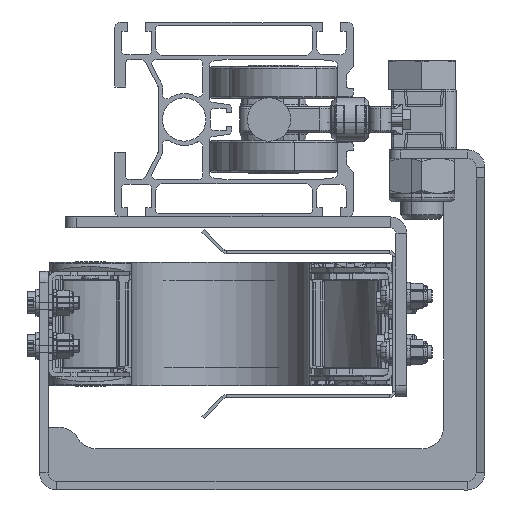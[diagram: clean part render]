
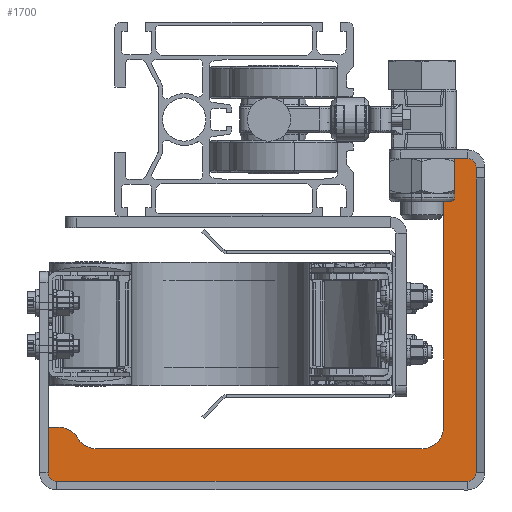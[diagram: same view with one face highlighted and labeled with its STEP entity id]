
A CAD part, left-side view. The second image highlights one B-rep face of the part: STEP entity #1700.
In plain terms, the highlighted planar face has unit normal (-1, 0, 0) as drawn and (0, 0, -1) by its records, which use the part's own axes.
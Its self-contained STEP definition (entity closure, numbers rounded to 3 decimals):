
#1534 = VECTOR ( 'NONE', #67469, 1000. ) ;
#1700 = ADVANCED_FACE ( 'NONE', ( #117446 ), #47158, .T. ) ;
#1820 = CARTESIAN_POINT ( 'NONE',  ( 61.5, 5., -26.5 ) ) ;
#2233 = CARTESIAN_POINT ( 'NONE',  ( 51.5, 172.5, -26.5 ) ) ;
#2324 = EDGE_CURVE ( 'NONE', #106094, #5981, #6878, .T. ) ;
#3713 = VERTEX_POINT ( 'NONE', #15935 ) ;
#4251 = ORIENTED_EDGE ( 'NONE', *, *, #87080, .T. ) ;
#4475 = AXIS2_PLACEMENT_3D ( 'NONE', #24157, #25373, #52193 ) ;
#4877 = EDGE_CURVE ( 'NONE', #31063, #3713, #72235, .T. ) ;
#5722 = LINE ( 'NONE', #103664, #119206 ) ;
#5981 = VERTEX_POINT ( 'NONE', #2233 ) ;
#6405 = DIRECTION ( 'NONE',  ( 0., 1., 0. ) ) ;
#6878 = CIRCLE ( 'NONE', #65081, 10. ) ;
#8131 = VECTOR ( 'NONE', #86411, 1000. ) ;
#8220 = ORIENTED_EDGE ( 'NONE', *, *, #13661, .T. ) ;
#11043 = EDGE_CURVE ( 'NONE', #91167, #52694, #49641, .T. ) ;
#12881 = EDGE_CURVE ( 'NONE', #81939, #55741, #55100, .T. ) ;
#13279 = ORIENTED_EDGE ( 'NONE', *, *, #54406, .T. ) ;
#13357 = CARTESIAN_POINT ( 'NONE',  ( 61.5, 172.5, -26.5 ) ) ;
#13661 = EDGE_CURVE ( 'NONE', #100036, #31063, #20162, .T. ) ;
#14737 = VERTEX_POINT ( 'NONE', #107710 ) ;
#15908 = DIRECTION ( 'NONE',  ( 0., 0., -1. ) ) ;
#15935 = CARTESIAN_POINT ( 'NONE',  ( 61.5, 155.179, -26.5 ) ) ;
#16116 = DIRECTION ( 'NONE',  ( 0., 1., 0. ) ) ;
#19694 = CARTESIAN_POINT ( 'NONE',  ( 56.5, 163.84, -26.5 ) ) ;
#20162 = CIRCLE ( 'NONE', #35015, 10. ) ;
#21918 = ORIENTED_EDGE ( 'NONE', *, *, #2324, .T. ) ;
#24157 = CARTESIAN_POINT ( 'NONE',  ( -68.5, -16., -26.5 ) ) ;
#25207 = DIRECTION ( 'NONE',  ( 0., 1., 0. ) ) ;
#25373 = DIRECTION ( 'NONE',  ( 0., 0., -1. ) ) ;
#25579 = EDGE_LOOP ( 'NONE', ( #65804, #8220, #107972, #98740, #21918, #4251, #13279, #47719, #60716, #107075, #73919, #116579, #48696 ) ) ;
#27870 = CARTESIAN_POINT ( 'NONE',  ( 76.5, 173.5, -26.5 ) ) ;
#29338 = VERTEX_POINT ( 'NONE', #93270 ) ;
#29667 = CARTESIAN_POINT ( 'NONE',  ( -68.5, -20., -26.5 ) ) ;
#31063 = VERTEX_POINT ( 'NONE', #1820 ) ;
#31423 = CARTESIAN_POINT ( 'NONE',  ( -72.5, -16., -26.5 ) ) ;
#32050 = LINE ( 'NONE', #85406, #1534 ) ;
#32826 = LINE ( 'NONE', #78676, #8131 ) ;
#33331 = VECTOR ( 'NONE', #80506, 1000. ) ;
#34494 = VECTOR ( 'NONE', #104452, 1000. ) ;
#35015 = AXIS2_PLACEMENT_3D ( 'NONE', #117772, #116156, #6405 ) ;
#37813 = VECTOR ( 'NONE', #16116, 1000. ) ;
#42828 = CARTESIAN_POINT ( 'NONE',  ( 51.5, 177.5, -26.5 ) ) ;
#47158 = PLANE ( 'NONE',  #50343 ) ;
#47719 = ORIENTED_EDGE ( 'NONE', *, *, #12881, .T. ) ;
#47952 = DIRECTION ( 'NONE',  ( 0., 0., -1. ) ) ;
#48696 = ORIENTED_EDGE ( 'NONE', *, *, #69620, .T. ) ;
#49557 = LINE ( 'NONE', #97348, #68414 ) ;
#49641 = CIRCLE ( 'NONE', #4475, 4. ) ;
#50343 = AXIS2_PLACEMENT_3D ( 'NONE', #112276, #47952, #84527 ) ;
#51655 = CARTESIAN_POINT ( 'NONE',  ( 72.5, -20., -26.5 ) ) ;
#52193 = DIRECTION ( 'NONE',  ( 0., 1., 0. ) ) ;
#52237 = DIRECTION ( 'NONE',  ( 0., 1., 0. ) ) ;
#52694 = VERTEX_POINT ( 'NONE', #31423 ) ;
#54406 = EDGE_CURVE ( 'NONE', #64070, #81939, #32050, .T. ) ;
#55100 = CIRCLE ( 'NONE', #87887, 4. ) ;
#55741 = VERTEX_POINT ( 'NONE', #27870 ) ;
#57317 = VERTEX_POINT ( 'NONE', #61708 ) ;
#58720 = AXIS2_PLACEMENT_3D ( 'NONE', #91252, #81097, #92067 ) ;
#60716 = ORIENTED_EDGE ( 'NONE', *, *, #110938, .T. ) ;
#61708 = CARTESIAN_POINT ( 'NONE',  ( -72.5, -5., -26.5 ) ) ;
#64070 = VERTEX_POINT ( 'NONE', #42828 ) ;
#65081 = AXIS2_PLACEMENT_3D ( 'NONE', #13357, #78285, #114591 ) ;
#65804 = ORIENTED_EDGE ( 'NONE', *, *, #105798, .T. ) ;
#67469 = DIRECTION ( 'NONE',  ( 1., 0., 0. ) ) ;
#68414 = VECTOR ( 'NONE', #106735, 1000. ) ;
#69451 = EDGE_CURVE ( 'NONE', #29338, #91167, #79824, .T. ) ;
#69620 = EDGE_CURVE ( 'NONE', #52694, #57317, #5722, .T. ) ;
#71696 = CARTESIAN_POINT ( 'NONE',  ( 51.5, 162.5, -26.5 ) ) ;
#72235 = LINE ( 'NONE', #114255, #34494 ) ;
#72680 = CARTESIAN_POINT ( 'NONE',  ( 72.5, 173.5, -26.5 ) ) ;
#73919 = ORIENTED_EDGE ( 'NONE', *, *, #69451, .T. ) ;
#78285 = DIRECTION ( 'NONE',  ( 0., 0., -1. ) ) ;
#78676 = CARTESIAN_POINT ( 'NONE',  ( 61.5, -5., -26.5 ) ) ;
#79824 = LINE ( 'NONE', #51655, #33331 ) ;
#80506 = DIRECTION ( 'NONE',  ( -1., 0., 0. ) ) ;
#81097 = DIRECTION ( 'NONE',  ( 0., 0., -1. ) ) ;
#81939 = VERTEX_POINT ( 'NONE', #94477 ) ;
#82654 = CIRCLE ( 'NONE', #112405, 10. ) ;
#84527 = DIRECTION ( 'NONE',  ( 0., 1., 0. ) ) ;
#85406 = CARTESIAN_POINT ( 'NONE',  ( 72.5, 177.5, -26.5 ) ) ;
#86411 = DIRECTION ( 'NONE',  ( 1., 0., 0. ) ) ;
#87080 = EDGE_CURVE ( 'NONE', #5981, #64070, #87278, .T. ) ;
#87278 = LINE ( 'NONE', #71696, #37813 ) ;
#87887 = AXIS2_PLACEMENT_3D ( 'NONE', #72680, #15908, #25207 ) ;
#91167 = VERTEX_POINT ( 'NONE', #29667 ) ;
#91252 = CARTESIAN_POINT ( 'NONE',  ( 72.5, -16., -26.5 ) ) ;
#92067 = DIRECTION ( 'NONE',  ( 0., 1., 0. ) ) ;
#92234 = CARTESIAN_POINT ( 'NONE',  ( 51.5, -5., -26.5 ) ) ;
#92605 = CIRCLE ( 'NONE', #58720, 4. ) ;
#92628 = DIRECTION ( 'NONE',  ( 0., 1., 0. ) ) ;
#93270 = CARTESIAN_POINT ( 'NONE',  ( 72.5, -20., -26.5 ) ) ;
#94477 = CARTESIAN_POINT ( 'NONE',  ( 72.5, 177.5, -26.5 ) ) ;
#97348 = CARTESIAN_POINT ( 'NONE',  ( 76.5, -16., -26.5 ) ) ;
#98740 = ORIENTED_EDGE ( 'NONE', *, *, #112912, .T. ) ;
#100036 = VERTEX_POINT ( 'NONE', #92234 ) ;
#102952 = EDGE_CURVE ( 'NONE', #14737, #29338, #92605, .T. ) ;
#103664 = CARTESIAN_POINT ( 'NONE',  ( -72.5, -16., -26.5 ) ) ;
#104452 = DIRECTION ( 'NONE',  ( 0., 1., 0. ) ) ;
#105798 = EDGE_CURVE ( 'NONE', #57317, #100036, #32826, .T. ) ;
#106094 = VERTEX_POINT ( 'NONE', #19694 ) ;
#106735 = DIRECTION ( 'NONE',  ( 0., -1., 0. ) ) ;
#107075 = ORIENTED_EDGE ( 'NONE', *, *, #102952, .T. ) ;
#107710 = CARTESIAN_POINT ( 'NONE',  ( 76.5, -16., -26.5 ) ) ;
#107972 = ORIENTED_EDGE ( 'NONE', *, *, #4877, .T. ) ;
#107995 = CARTESIAN_POINT ( 'NONE',  ( 51.5, 155.179, -26.5 ) ) ;
#110938 = EDGE_CURVE ( 'NONE', #55741, #14737, #49557, .T. ) ;
#112276 = CARTESIAN_POINT ( 'NONE',  ( -68.5, -16., -26.5 ) ) ;
#112405 = AXIS2_PLACEMENT_3D ( 'NONE', #107995, #117344, #52237 ) ;
#112912 = EDGE_CURVE ( 'NONE', #3713, #106094, #82654, .T. ) ;
#114255 = CARTESIAN_POINT ( 'NONE',  ( 61.5, -5., -26.5 ) ) ;
#114591 = DIRECTION ( 'NONE',  ( 0., 1., 0. ) ) ;
#116156 = DIRECTION ( 'NONE',  ( 0., 0., 1. ) ) ;
#116579 = ORIENTED_EDGE ( 'NONE', *, *, #11043, .T. ) ;
#117344 = DIRECTION ( 'NONE',  ( 0., 0., 1. ) ) ;
#117446 = FACE_OUTER_BOUND ( 'NONE', #25579, .T. ) ;
#117772 = CARTESIAN_POINT ( 'NONE',  ( 51.5, 5., -26.5 ) ) ;
#119206 = VECTOR ( 'NONE', #92628, 1000. ) ;
